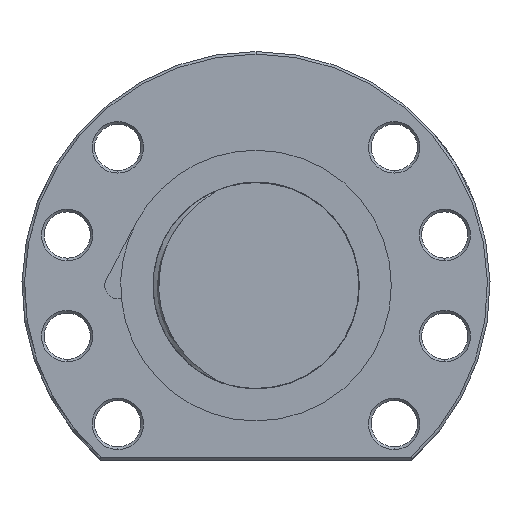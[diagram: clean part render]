
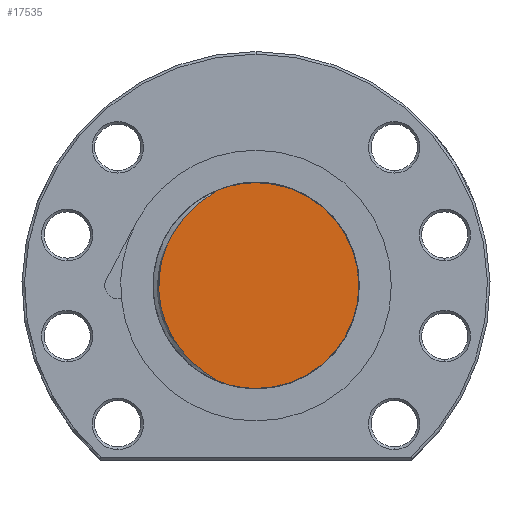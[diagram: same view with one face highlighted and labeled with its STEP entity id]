
A CAD part, left-side view. The second image highlights one B-rep face of the part: STEP entity #17535.
In plain terms, the highlighted planar face has unit normal (-1, 0, 0).
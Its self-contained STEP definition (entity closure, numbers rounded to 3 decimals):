
#57 = VERTEX_POINT ( 'NONE', #17578 ) ;
#1158 = EDGE_CURVE ( 'NONE', #57, #1187, #10017, .T. ) ;
#1167 = VERTEX_POINT ( 'NONE', #10261 ) ;
#1168 = VERTEX_POINT ( 'NONE', #10260 ) ;
#1187 = VERTEX_POINT ( 'NONE', #10337 ) ;
#1195 = EDGE_CURVE ( 'NONE', #1167, #1168, #10446, .T. ) ;
#10017 = CIRCLE ( 'NONE', #10033, 20. ) ;
#10030 = DIRECTION ( 'NONE',  ( 0., 1., 0. ) ) ;
#10031 = DIRECTION ( 'NONE',  ( 1., 0., 0. ) ) ;
#10032 = CARTESIAN_POINT ( 'NONE',  ( -96., 0., 0. ) ) ;
#10033 = AXIS2_PLACEMENT_3D ( 'NONE', #10032, #10031, #10030 ) ;
#10260 = CARTESIAN_POINT ( 'NONE',  ( -96., 0., 20. ) ) ;
#10261 = CARTESIAN_POINT ( 'NONE',  ( -96., 7.513, 18.535 ) ) ;
#10337 = CARTESIAN_POINT ( 'NONE',  ( -96., 7.512, -18.536 ) ) ;
#10438 = DIRECTION ( 'NONE',  ( 0., 1., 0. ) ) ;
#10439 = DIRECTION ( 'NONE',  ( 1., 0., 0. ) ) ;
#10440 = CARTESIAN_POINT ( 'NONE',  ( -96., 0., 0. ) ) ;
#10441 = AXIS2_PLACEMENT_3D ( 'NONE', #10440, #10439, #10438 ) ;
#10446 = CIRCLE ( 'NONE', #10441, 20. ) ;
#11632 = DIRECTION ( 'NONE',  ( 0., 0., -1. ) ) ;
#11633 = DIRECTION ( 'NONE',  ( 1., 0., 0. ) ) ;
#11634 = CARTESIAN_POINT ( 'NONE',  ( -96., 0., 0. ) ) ;
#11635 = AXIS2_PLACEMENT_3D ( 'NONE', #11634, #11633, #11632 ) ;
#11636 = PLANE ( 'NONE',  #11635 ) ;
#11642 = FACE_OUTER_BOUND ( 'NONE', #17536, .T. ) ;
#12279 = DIRECTION ( 'NONE',  ( 0., 1., 0. ) ) ;
#12280 = DIRECTION ( 'NONE',  ( 1., 0., 0. ) ) ;
#12281 = CARTESIAN_POINT ( 'NONE',  ( -96., 0., 0. ) ) ;
#12282 = AXIS2_PLACEMENT_3D ( 'NONE', #12281, #12280, #12279 ) ;
#12349 = CIRCLE ( 'NONE', #12282, 20. ) ;
#12977 = CARTESIAN_POINT ( 'NONE',  ( -96., 9.511, -17.224 ) ) ;
#12978 = CARTESIAN_POINT ( 'NONE',  ( -96., 10.672, -16.383 ) ) ;
#12979 = CARTESIAN_POINT ( 'NONE',  ( -96., 11.411, -15.786 ) ) ;
#12980 = CARTESIAN_POINT ( 'NONE',  ( -96., 12.808, -14.506 ) ) ;
#12981 = CARTESIAN_POINT ( 'NONE',  ( -96., 13.466, -13.824 ) ) ;
#12982 = CARTESIAN_POINT ( 'NONE',  ( -96., 14.387, -12.731 ) ) ;
#12983 = CARTESIAN_POINT ( 'NONE',  ( -96., 14.684, -12.354 ) ) ;
#12984 = CARTESIAN_POINT ( 'NONE',  ( -96., 15.249, -11.583 ) ) ;
#12985 = CARTESIAN_POINT ( 'NONE',  ( -96., 15.516, -11.189 ) ) ;
#12986 = CARTESIAN_POINT ( 'NONE',  ( -96., 16.275, -9.986 ) ) ;
#12987 = CARTESIAN_POINT ( 'NONE',  ( -96., 16.724, -9.153 ) ) ;
#12988 = CARTESIAN_POINT ( 'NONE',  ( -96., 17.311, -7.858 ) ) ;
#12989 = CARTESIAN_POINT ( 'NONE',  ( -96., 17.492, -7.418 ) ) ;
#12990 = CARTESIAN_POINT ( 'NONE',  ( -96., 17.824, -6.523 ) ) ;
#12991 = CARTESIAN_POINT ( 'NONE',  ( -96., 17.976, -6.067 ) ) ;
#12992 = CARTESIAN_POINT ( 'NONE',  ( -96., 18.645, -3.78 ) ) ;
#12993 = CARTESIAN_POINT ( 'NONE',  ( -96., 18.911, -1.908 ) ) ;
#12994 = CARTESIAN_POINT ( 'NONE',  ( -96., 18.91, 0.484 ) ) ;
#12995 = CARTESIAN_POINT ( 'NONE',  ( -96., 18.892, 0.963 ) ) ;
#12996 = CARTESIAN_POINT ( 'NONE',  ( -96., 18.825, 1.912 ) ) ;
#12997 = CARTESIAN_POINT ( 'NONE',  ( -96., 18.774, 2.383 ) ) ;
#12998 = CARTESIAN_POINT ( 'NONE',  ( -96., 18.573, 3.788 ) ) ;
#12999 = CARTESIAN_POINT ( 'NONE',  ( -96., 18.373, 4.712 ) ) ;
#13000 = CARTESIAN_POINT ( 'NONE',  ( -96., 17.838, 6.536 ) ) ;
#13001 = CARTESIAN_POINT ( 'NONE',  ( -96., 17.501, 7.439 ) ) ;
#13002 = CARTESIAN_POINT ( 'NONE',  ( -96., 16.714, 9.173 ) ) ;
#13003 = CARTESIAN_POINT ( 'NONE',  ( -96., 16.262, 10.01 ) ) ;
#13004 = CARTESIAN_POINT ( 'NONE',  ( -96., 15.496, 11.219 ) ) ;
#13005 = CARTESIAN_POINT ( 'NONE',  ( -96., 15.225, 11.616 ) ) ;
#13006 = CARTESIAN_POINT ( 'NONE',  ( -96., 14.66, 12.386 ) ) ;
#13007 = CARTESIAN_POINT ( 'NONE',  ( -96., 14.366, 12.758 ) ) ;
#13008 = CARTESIAN_POINT ( 'NONE',  ( -96., 13.45, 13.843 ) ) ;
#13009 = CARTESIAN_POINT ( 'NONE',  ( -96., 12.794, 14.52 ) ) ;
#13010 = CARTESIAN_POINT ( 'NONE',  ( -96., 11.403, 15.792 ) ) ;
#13011 = CARTESIAN_POINT ( 'NONE',  ( -96., 10.666, 16.386 ) ) ;
#13012 = CARTESIAN_POINT ( 'NONE',  ( -96., 9.509, 17.225 ) ) ;
#13013 = CARTESIAN_POINT ( 'NONE',  ( -96., 9.115, 17.495 ) ) ;
#13014 = CARTESIAN_POINT ( 'NONE',  ( -96., 8.317, 18.021 ) ) ;
#13015 = CARTESIAN_POINT ( 'NONE',  ( -96., 7.913, 18.276 ) ) ;
#13016 = CARTESIAN_POINT ( 'NONE',  ( -96., 7.513, 18.535 ) ) ;
#13017 = B_SPLINE_CURVE_WITH_KNOTS ( 'NONE', 3,
 ( #13016, #13015, #13014, #13013, #13012, #13011, #13010, #13009, #13008, #13007, #13006, #13005, #13004, #13003, #13002, #13001, #13000, #12999, #12998, #12997, #12996, #12995, #12994, #12993, #12992, #12991, #12990, #12989, #12988, #12987, #12986, #12985, #12984, #12983, #12982, #12981, #12980, #12979, #12978, #12977, #13080, #13079, #13078, #13077 ),
 .UNSPECIFIED., .F., .F.,
 ( 4, 2, 2, 2, 2, 2, 2, 2, 2, 2, 2, 2, 2, 2, 2, 2, 2, 2, 2, 2, 2, 4 ),
 ( 0.02, 0.021, 0.023, 0.026, 0.028, 0.03, 0.031, 0.034, 0.037, 0.04, 0.041, 0.042, 0.048, 0.049, 0.051, 0.054, 0.055, 0.056, 0.059, 0.062, 0.063, 0.065 ),
 .UNSPECIFIED. ) ;
#13077 = CARTESIAN_POINT ( 'NONE',  ( -96., 7.512, -18.536 ) ) ;
#13078 = CARTESIAN_POINT ( 'NONE',  ( -96., 7.913, -18.276 ) ) ;
#13079 = CARTESIAN_POINT ( 'NONE',  ( -96., 8.318, -18.021 ) ) ;
#13080 = CARTESIAN_POINT ( 'NONE',  ( -96., 9.116, -17.495 ) ) ;
#17535 = ADVANCED_FACE ( 'NONE', ( #11642 ), #11636, .F. ) ;
#17536 = EDGE_LOOP ( 'NONE', ( #17537, #26448, #26450, #26451 ) ) ;
#17537 = ORIENTED_EDGE ( 'NONE', *, *, #1195, .F. ) ;
#17578 = CARTESIAN_POINT ( 'NONE',  ( -96., 0., -20. ) ) ;
#26362 = EDGE_CURVE ( 'NONE', #1168, #57, #12349, .T. ) ;
#26448 = ORIENTED_EDGE ( 'NONE', *, *, #26449, .T. ) ;
#26449 = EDGE_CURVE ( 'NONE', #1167, #1187, #13017, .T. ) ;
#26450 = ORIENTED_EDGE ( 'NONE', *, *, #1158, .F. ) ;
#26451 = ORIENTED_EDGE ( 'NONE', *, *, #26362, .F. ) ;
